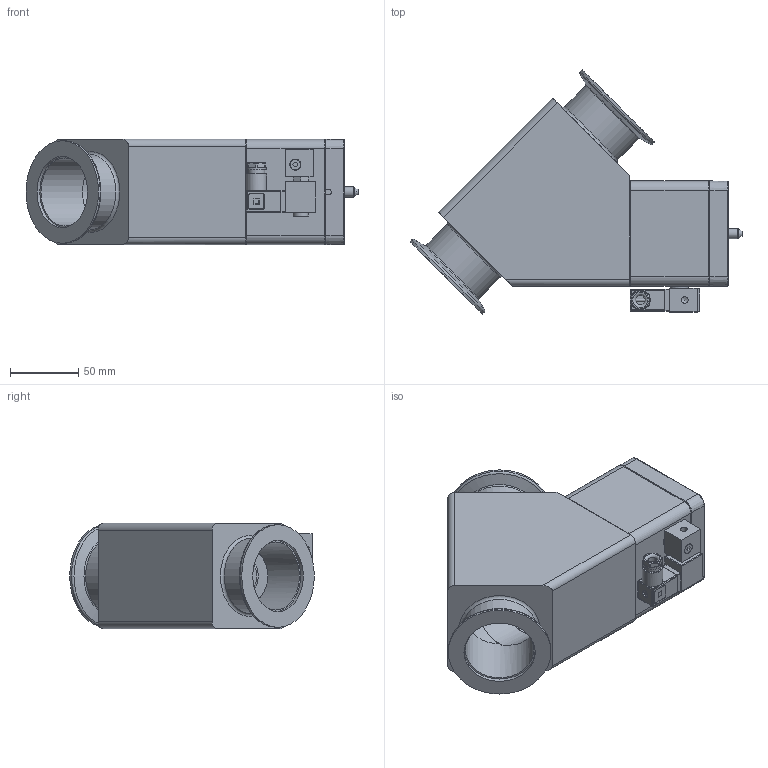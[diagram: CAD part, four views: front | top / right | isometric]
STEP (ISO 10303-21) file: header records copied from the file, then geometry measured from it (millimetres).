
FILE_DESCRIPTION(/* description */ (''),/* implementation_level */ '2;1');
FILE_NAME(/* name */ '1195949753_203.stp',/* time_stamp */ '2013-09-05T14:13:47+02:00',/* author */ (''),/* organization */ (''),/* preprocessor_version */ 'ST-DEVELOPER v11',/* originating_system */ 'SIEMENS PLM Software NX 7.5',/* authorisation */ '');
FILE_SCHEMA (('AP203_CONFIGURATION_CONTROLLED_3D_DESIGN_OF_MECHANICAL_PARTS_AND_ASSEMBLIES_MIM_LF'));
Length unit declared in the file: millimetre
Products named in the file (13): 467882; 437235; 244091.2; 245150; 236204_1.1; 256333.8; 256526.3; 258606.1; 224820.2; n-8501-400.2_MODELNX-ARRAGMNTArrangement 1; 443457; 248485.2; 708526
Assembly tree (16 placements, depth 4):
  708526
    248485.2
      236204_1.1  x2
      245150
    224820.2  x4
    443457
      244091.2
      n-8501-400.2_MODELNX-ARRAGMNTArrangement 1
        437235
        467882
    258606.1
    256526.3
    256333.8
Bounding box: 242.85 x 178.9 x 77 mm (x, y, z)
Volume: 854188 mm3; surface area: 217128.8 mm2
Topology: 22 solids, 23 shells, 806 faces, 1967 edges, 1270 vertices
Faces by surface type: plane 491, cylinder 147, cone 120, bspline 28, torus 15, sphere 5
Full cylindrical faces by diameter (mm): 2 x1, 2.5 x5, 2.8 x1, 2.95 x1, 3 x5, 4.2 x1, 4.22 x1, 4.6 x1, 4.7 x2, 4.96 x4, 5 x12, 5.5 x1, 5.6 x2, 6 x12, 6.6 x4, 7.4 x2, 7.6 x1, 7.9 x1, 8 x3, 8.175 x1, 9.1 x1, 10 x5, 10.2 x1, 11.3 x1, 11.4 x1, 11.5 x1, 11.975 x3, 12.015 x2, 12.5 x1, 13.5 x1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
Entity records: 25358 total; most frequent: CARTESIAN_POINT 5729, DIRECTION 3355, ORIENTED_EDGE 3234, EDGE_CURVE 1617, AXIS2_PLACEMENT_3D 1189, VERTEX_POINT 1150, EDGE_LOOP 1000, LINE 977
